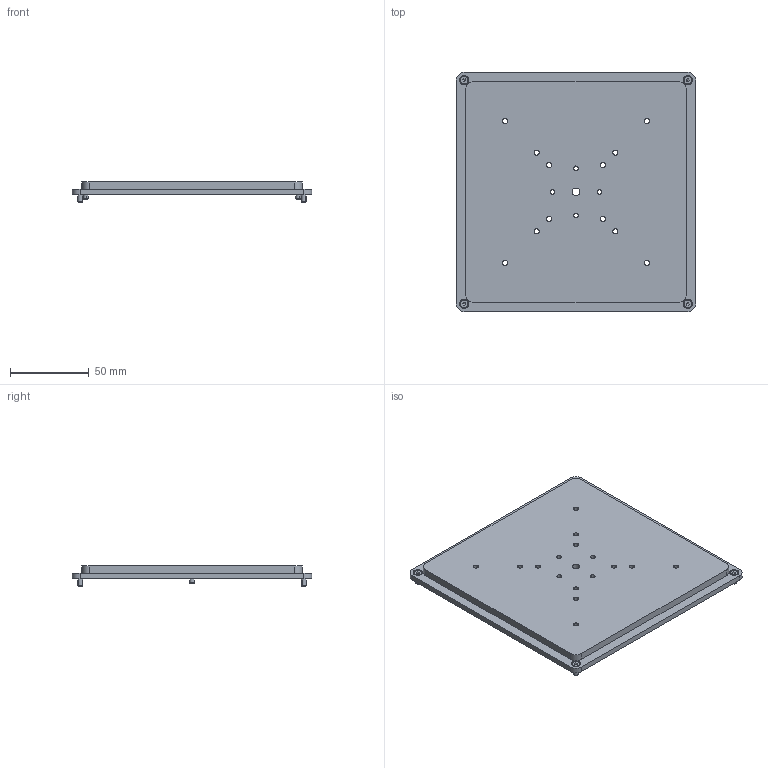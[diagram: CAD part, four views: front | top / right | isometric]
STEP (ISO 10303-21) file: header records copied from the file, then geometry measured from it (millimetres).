
FILE_DESCRIPTION (( 'STEP AP203' ), '1' );
FILE_NAME ('48.520.1130 (2).step', '2012-06-19T07:58:16', ( '' ), ( '' ), 'SwSTEP 2.0', 'SolidWorks 2011', '' );
FILE_SCHEMA (( 'CONFIG_CONTROL_DESIGN' ));
Length unit declared in the file: millimetre
Products named in the file (1): 48.520.1130 (2)
Bounding box: 152 x 152 x 12.7 mm (x, y, z)
Volume: 166358 mm3; surface area: 52747.7 mm2
Topology: 1 solids, 3 shells, 232 faces, 542 edges, 334 vertices
Faces by surface type: cylinder 98, plane 90, cone 28, torus 16
Entity records: 6723 total; most frequent: DIRECTION 1268, CARTESIAN_POINT 1097, ORIENTED_EDGE 1060, EDGE_CURVE 530, AXIS2_PLACEMENT_3D 505, VERTEX_POINT 334, EDGE_LOOP 296, CIRCLE 272
